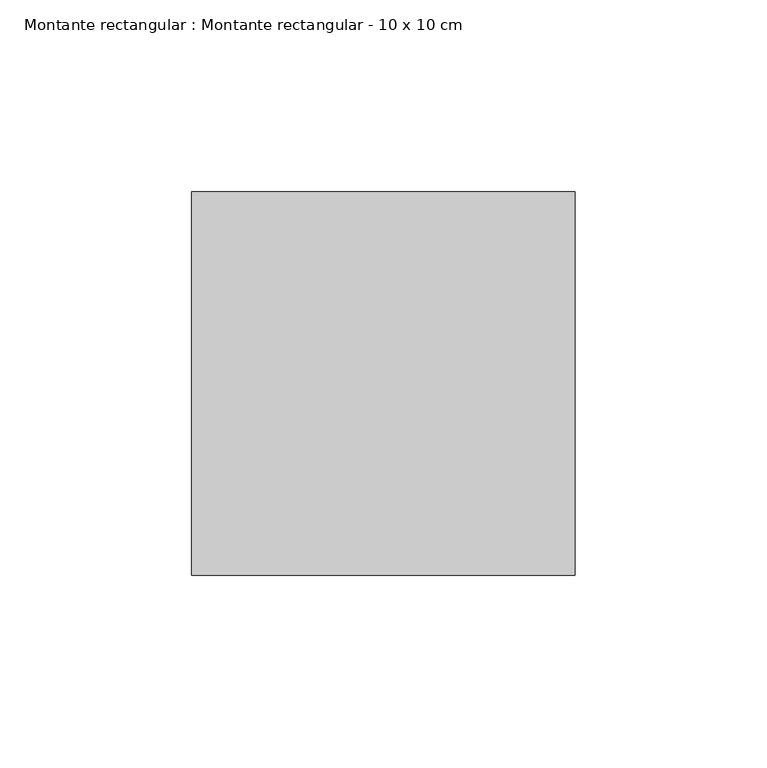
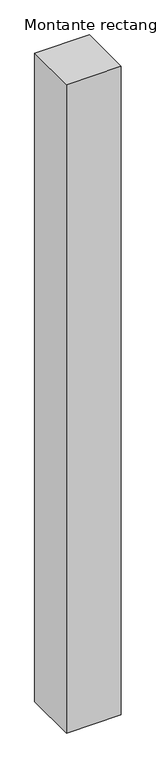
"""IFC4 building model written with IfcOpenShell, lengths in millimetres: member geometry, Montante rectangular : Montante rectangular - 10 x 10 cm."""

from ifc_helpers import new_model, si_unit, frame, origin, place, context, project, spatial, polyline, outline, extrude, source, transform, mapped, element, save


def montante_rectangular_montante_rectangular_10_x_10_cm_2b84404f(model_context):
    return source(origin(), model_context, "Body", "SweptSolid", [
        extrude(outline(polyline([(0.0, 50.0), (0.0, -50.0), (-100.0, -50.0), (-100.0, 50.0), (0.0, 50.0)])), frame((0.0, 0.0, -1250.0), z_axis=(0.0, 0.0, 1.0), x_axis=(1.0, 0.0, 0.0)), (0.0, 0.0, 1.0), 1250.0),
    ])


if __name__ == "__main__":
    model = new_model("IFC4")
    model_context = context("Model", 3, world=origin())
    ifc_project = project(units=[si_unit("LENGTHUNIT", "METRE", prefix="MILLI")], contexts=[model_context])
    site = spatial("IfcSite", under=ifc_project)
    building = spatial("IfcBuilding", under=site)
    placement = place(None, origin())
    montante_rectangular_montante_rectangular_10_x_10_cm_shape = montante_rectangular_montante_rectangular_10_x_10_cm_2b84404f(model_context)
    element("IfcMember", 1, ObjectType="Montante rectangular : Montante rectangular - 10 x 10 cm", at=placement, inside=building, context=model_context, shape_type="MappedRepresentation", body=[
        mapped(montante_rectangular_montante_rectangular_10_x_10_cm_shape, transform((0.0, 0.0, 0.0), x_axis=(1.0, 0.0, 0.0), y_axis=(0.0, 1.0, 0.0), z_axis=(0.0, 0.0, 1.0))),
    ])
    save(model, "model.ifc")
